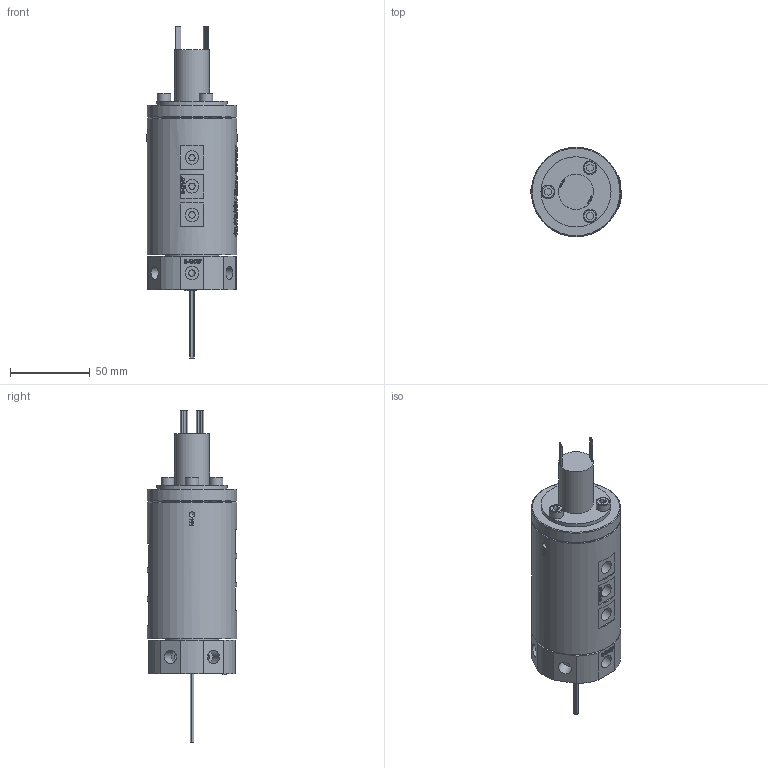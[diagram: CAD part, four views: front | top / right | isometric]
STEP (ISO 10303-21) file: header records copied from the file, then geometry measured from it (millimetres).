
FILE_DESCRIPTION(/* description */ (''),/* implementation_level */ '2;1');
FILE_NAME(/* name */ 'YQ0601-24M.stp',/* time_stamp */ '2025-02-15T15:30:50+08:00',/* author */ (''),/* organization */ (''),/* preprocessor_version */ 'ST-DEVELOPER v16.7',/* originating_system */ 'SIEMENS PLM Software NX 12.0',/* authorisation */ '');
FILE_SCHEMA (('AUTOMOTIVE_DESIGN { 1 0 10303 214 3 1 1 1 }'));
Products named in the file (1): HX0527348ECCpchg
Bounding box: 57 x 56 x 208.4 mm (x, y, z)
Volume: 285443.9 mm3; surface area: 44398.5 mm2
Topology: 1 solids, 4 shells, 1265 faces, 3368 edges, 2259 vertices
Faces by surface type: extrusion 630, plane 477, cylinder 113, bspline 33, cone 9, torus 3
Full cylindrical faces by diameter (mm): 0.8 x16, 3.4 x6, 4 x18, 4.1 x6, 4.2 x6, 5 x3, 5.5 x3, 7.8 x1, 8 x1, 8.5 x15, 22 x1, 34 x1, 44 x1, 56 x2
Entity records: 46824 total; most frequent: CARTESIAN_POINT 20330, ORIENTED_EDGE 6420, EDGE_CURVE 3210, DIRECTION 3081, B_SPLINE_CURVE_WITH_KNOTS 2938, VERTEX_POINT 2207, EDGE_LOOP 1513, ADVANCED_FACE 1262
